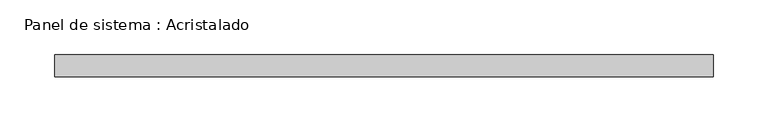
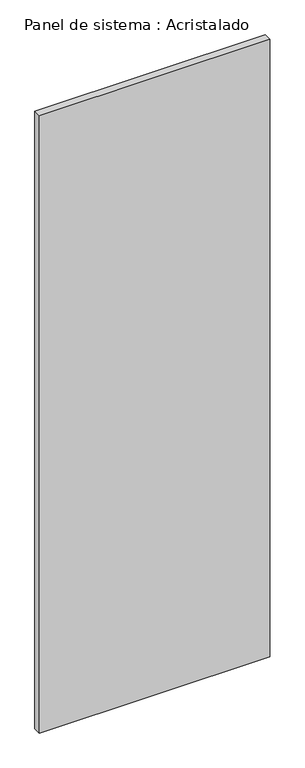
"""IFC4 building model written with IfcOpenShell, lengths in millimetres: plate geometry, Panel de sistema : Acristalado."""

from ifc_helpers import new_model, si_unit, origin, origin_with_axes, place, context, project, spatial, polyline, outline, extrude, source, transform, mapped, element, save


def panel_de_sistema_acristalado_40b13092(model_context):
    return source(origin(), model_context, "Body", "SweptSolid", [
        extrude(outline(polyline([(300.0, -10.0), (-300.0, -10.0), (-300.0, 10.0), (300.0, 10.0), (300.0, -10.0)])), origin_with_axes(), (0.0, 0.0, 1.0), 1700.0),
    ])


if __name__ == "__main__":
    model = new_model("IFC4")
    model_context = context("Model", 3, world=origin())
    ifc_project = project(units=[si_unit("LENGTHUNIT", "METRE", prefix="MILLI")], contexts=[model_context])
    site = spatial("IfcSite", under=ifc_project)
    building = spatial("IfcBuilding", under=site)
    placement = place(None, origin())
    panel_de_sistema_acristalado_shape = panel_de_sistema_acristalado_40b13092(model_context)
    element("IfcPlate", 1, ObjectType="Panel de sistema : Acristalado", at=placement, inside=building, context=model_context, shape_type="MappedRepresentation", body=[
        mapped(panel_de_sistema_acristalado_shape, transform((0.0, 0.0, 0.0), x_axis=(1.0, 0.0, 0.0), y_axis=(0.0, 1.0, 0.0), z_axis=(0.0, 0.0, 1.0))),
    ])
    save(model, "model.ifc")
